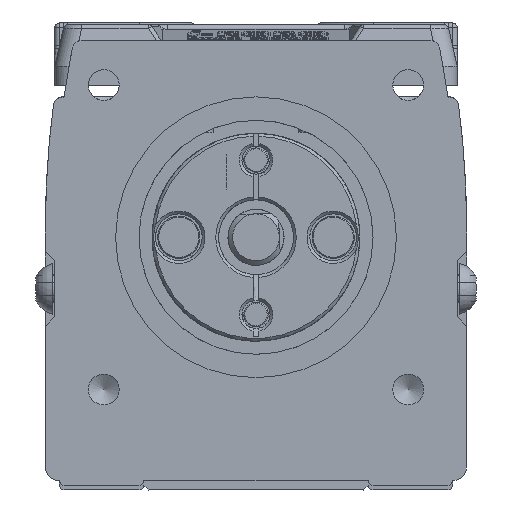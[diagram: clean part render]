
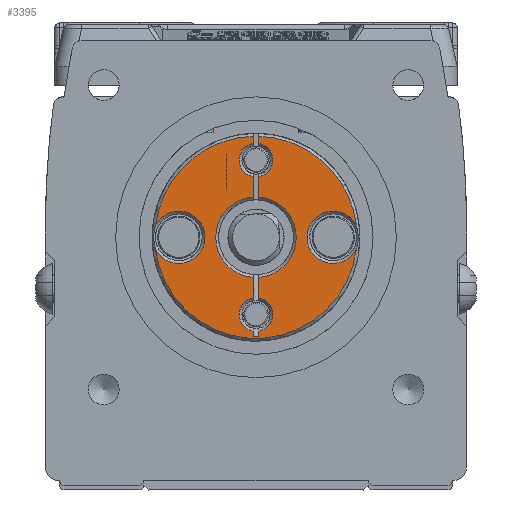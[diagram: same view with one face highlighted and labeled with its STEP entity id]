
A CAD part, left-side view. The second image highlights one B-rep face of the part: STEP entity #3395.
In plain terms, the highlighted planar face has unit normal (-1, 0, 0) as drawn and (1, 0, 0) by its records, which use the part's own axes.
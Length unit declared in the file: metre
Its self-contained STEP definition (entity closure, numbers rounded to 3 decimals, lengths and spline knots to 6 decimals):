
#3395=ADVANCED_FACE('',(#7550),#7551,.F.);
#7550=FACE_OUTER_BOUND('',#13743,.T.);
#7551=PLANE('',#13744);
#13743=EDGE_LOOP('',(#23299,#23300,#23301,#23302,#23303,#23304,#23305,#23306,#23307,#23308,#23309,#23310,#23311,#23312,#23313,#23314,#23315,#23316,#23317,#23318));
#13744=AXIS2_PLACEMENT_3D('',#23319,#23320,#23321);
#23299=ORIENTED_EDGE('',*,*,#38531,.F.);
#23300=ORIENTED_EDGE('',*,*,#38532,.T.);
#23301=ORIENTED_EDGE('',*,*,#38533,.F.);
#23302=ORIENTED_EDGE('',*,*,#38534,.F.);
#23303=ORIENTED_EDGE('',*,*,#38302,.T.);
#23304=ORIENTED_EDGE('',*,*,#38535,.T.);
#23305=ORIENTED_EDGE('',*,*,#38536,.F.);
#23306=ORIENTED_EDGE('',*,*,#38537,.F.);
#23307=ORIENTED_EDGE('',*,*,#38538,.F.);
#23308=ORIENTED_EDGE('',*,*,#38539,.T.);
#23309=ORIENTED_EDGE('',*,*,#38540,.F.);
#23310=ORIENTED_EDGE('',*,*,#38541,.F.);
#23311=ORIENTED_EDGE('',*,*,#38542,.F.);
#23312=ORIENTED_EDGE('',*,*,#38543,.F.);
#23313=ORIENTED_EDGE('',*,*,#38544,.F.);
#23314=ORIENTED_EDGE('',*,*,#38545,.F.);
#23315=ORIENTED_EDGE('',*,*,#38546,.F.);
#23316=ORIENTED_EDGE('',*,*,#38547,.F.);
#23317=ORIENTED_EDGE('',*,*,#38548,.T.);
#23318=ORIENTED_EDGE('',*,*,#38549,.F.);
#23319=CARTESIAN_POINT('',(0.0,0.0,0.));
#23320=DIRECTION('',(-1.0,0.,0.0));
#23321=DIRECTION('',(0.,-1.0,0.0));
#38302=EDGE_CURVE('',#44430,#44434,#44436,.F.);
#38531=EDGE_CURVE('',#44835,#44836,#44837,.F.);
#38532=EDGE_CURVE('',#44835,#44838,#44839,.T.);
#38533=EDGE_CURVE('',#44840,#44838,#44841,.F.);
#38534=EDGE_CURVE('',#44430,#44840,#44842,.T.);
#38535=EDGE_CURVE('',#44434,#44843,#44844,.T.);
#38536=EDGE_CURVE('',#44845,#44843,#44846,.F.);
#38537=EDGE_CURVE('',#44847,#44845,#44848,.T.);
#38538=EDGE_CURVE('',#44849,#44847,#44850,.T.);
#38539=EDGE_CURVE('',#44849,#44851,#44852,.T.);
#38540=EDGE_CURVE('',#44853,#44851,#44854,.F.);
#38541=EDGE_CURVE('',#44855,#44853,#44856,.T.);
#38542=EDGE_CURVE('',#44857,#44855,#44858,.T.);
#38543=EDGE_CURVE('',#44859,#44857,#44860,.T.);
#38544=EDGE_CURVE('',#44861,#44859,#44862,.T.);
#38545=EDGE_CURVE('',#44863,#44861,#44864,.T.);
#38546=EDGE_CURVE('',#44865,#44863,#44866,.T.);
#38547=EDGE_CURVE('',#44867,#44865,#44868,.T.);
#38548=EDGE_CURVE('',#44867,#44869,#44870,.F.);
#38549=EDGE_CURVE('',#44836,#44869,#44871,.T.);
#44430=VERTEX_POINT('',#53381);
#44434=VERTEX_POINT('',#53389);
#44436=LINE('',#53391,#53392);
#44835=VERTEX_POINT('',#54107);
#44836=VERTEX_POINT('',#54108);
#44837=LINE('',#54109,#54110);
#44838=VERTEX_POINT('',#54111);
#44839=CIRCLE('',#54112,0.0043);
#44840=VERTEX_POINT('',#54113);
#44841=LINE('',#54114,#54115);
#44842=CIRCLE('',#54116,0.0018);
#44843=VERTEX_POINT('',#54117);
#44844=LINE('',#54118,#54119);
#44845=VERTEX_POINT('',#54120);
#44846=LINE('',#54121,#54122);
#44847=VERTEX_POINT('',#54123);
#44848=CIRCLE('',#54124,0.0018);
#44849=VERTEX_POINT('',#54125);
#44850=LINE('',#54126,#54127);
#44851=VERTEX_POINT('',#54128);
#44852=CIRCLE('',#54129,0.0043);
#44853=VERTEX_POINT('',#54130);
#44854=LINE('',#54131,#54132);
#44855=VERTEX_POINT('',#54133);
#44856=CIRCLE('',#54134,0.0018);
#44857=VERTEX_POINT('',#54135);
#44858=LINE('',#54136,#54137);
#44859=VERTEX_POINT('',#54138);
#44860=CIRCLE('',#54139,0.0108);
#44861=VERTEX_POINT('',#54140);
#44862=CIRCLE('',#54141,0.0028);
#44863=VERTEX_POINT('',#54142);
#44864=CIRCLE('',#54143,0.0108);
#44865=VERTEX_POINT('',#54144);
#44866=CIRCLE('',#54145,0.0028);
#44867=VERTEX_POINT('',#54146);
#44868=CIRCLE('',#54147,0.0108);
#44869=VERTEX_POINT('',#54148);
#44870=LINE('',#54149,#54150);
#44871=CIRCLE('',#54151,0.0018);
#53381=CARTESIAN_POINT('',(0.,-0.010025,-0.0003));
#53389=CARTESIAN_POINT('',(0.,-0.010642,-0.0003));
#53391=CARTESIAN_POINT('',(0.0,0.0025,-0.0003));
#53392=VECTOR('',#66726,1.0);
#54107=CARTESIAN_POINT('',(0.,0.00429,-0.0003));
#54108=CARTESIAN_POINT('',(0.,0.006475,-0.0003));
#54109=CARTESIAN_POINT('',(0.0,0.0,-0.0003));
#54110=VECTOR('',#67019,1.0);
#54111=CARTESIAN_POINT('',(0.,-0.00429,-0.0003));
#54112=AXIS2_PLACEMENT_3D('',#67020,#67021,#67022);
#54113=CARTESIAN_POINT('',(0.,-0.006475,-0.0003));
#54114=CARTESIAN_POINT('',(0.0,0.0,-0.0003));
#54115=VECTOR('',#67023,1.0);
#54116=AXIS2_PLACEMENT_3D('',#67024,#67025,#67026);
#54117=CARTESIAN_POINT('',(0.,-0.010642,0.0003));
#54118=CARTESIAN_POINT('',(0.,-0.010642,0.0003));
#54119=VECTOR('',#67027,1.0);
#54120=CARTESIAN_POINT('',(0.,-0.010025,0.0003));
#54121=CARTESIAN_POINT('',(0.0,0.0025,0.0003));
#54122=VECTOR('',#67028,1.0);
#54123=CARTESIAN_POINT('',(0.,-0.006475,0.0003));
#54124=AXIS2_PLACEMENT_3D('',#67029,#67030,#67031);
#54125=CARTESIAN_POINT('',(0.,-0.00429,0.0003));
#54126=CARTESIAN_POINT('',(0.0,0.0,0.0003));
#54127=VECTOR('',#67032,1.0);
#54128=CARTESIAN_POINT('',(0.0,0.00429,0.0003));
#54129=AXIS2_PLACEMENT_3D('',#67033,#67034,#67035);
#54130=CARTESIAN_POINT('',(0.0,0.006475,0.0003));
#54131=CARTESIAN_POINT('',(0.0,0.0025,0.0003));
#54132=VECTOR('',#67036,1.0);
#54133=CARTESIAN_POINT('',(0.,0.010025,0.0003));
#54134=AXIS2_PLACEMENT_3D('',#67037,#67038,#67039);
#54135=CARTESIAN_POINT('',(0.,0.010796,0.0003));
#54136=CARTESIAN_POINT('',(0.0,0.0,0.0003));
#54137=VECTOR('',#67040,1.0);
#54138=CARTESIAN_POINT('',(0.,0.001321,0.010719));
#54139=AXIS2_PLACEMENT_3D('',#67041,#67042,#67043);
#54140=CARTESIAN_POINT('',(0.,-0.001321,0.010719));
#54141=AXIS2_PLACEMENT_3D('',#67044,#67045,#67046);
#54142=CARTESIAN_POINT('',(0.,-0.001321,-0.010719));
#54143=AXIS2_PLACEMENT_3D('',#67047,#67048,#67049);
#54144=CARTESIAN_POINT('',(0.,0.001321,-0.010719));
#54145=AXIS2_PLACEMENT_3D('',#67050,#67051,#67052);
#54146=CARTESIAN_POINT('',(0.,0.010796,-0.0003));
#54147=AXIS2_PLACEMENT_3D('',#67053,#67054,#67055);
#54148=CARTESIAN_POINT('',(0.,0.010025,-0.0003));
#54149=CARTESIAN_POINT('',(0.0,0.0025,-0.0003));
#54150=VECTOR('',#67056,1.0);
#54151=AXIS2_PLACEMENT_3D('',#67057,#67058,#67059);
#66726=DIRECTION('',(0.0,1.0,0.0));
#67019=DIRECTION('',(0.,-1.0,0.0));
#67020=CARTESIAN_POINT('',(0.,0.,0.));
#67021=DIRECTION('',(-1.0,0.,0.0));
#67022=DIRECTION('',(0.,-1.0,0.0));
#67023=DIRECTION('',(0.,-1.0,0.0));
#67024=CARTESIAN_POINT('',(0.0,-0.00825,0.));
#67025=DIRECTION('',(1.0,0.0,0.0));
#67026=DIRECTION('',(0.0,0.0,-1.0));
#67027=DIRECTION('',(0.0,0.0,1.0));
#67028=DIRECTION('',(0.0,1.0,0.0));
#67029=CARTESIAN_POINT('',(0.0,-0.00825,0.));
#67030=DIRECTION('',(1.0,0.0,0.0));
#67031=DIRECTION('',(0.0,0.0,-1.0));
#67032=DIRECTION('',(0.,-1.0,0.0));
#67033=CARTESIAN_POINT('',(0.,0.,0.));
#67034=DIRECTION('',(-1.0,0.,0.0));
#67035=DIRECTION('',(0.,-1.0,0.0));
#67036=DIRECTION('',(0.0,1.0,0.0));
#67037=CARTESIAN_POINT('',(0.0,0.00825,0.));
#67038=DIRECTION('',(1.0,0.0,0.0));
#67039=DIRECTION('',(0.0,0.0,-1.0));
#67040=DIRECTION('',(0.,-1.0,0.0));
#67041=CARTESIAN_POINT('',(0.,0.0,0.));
#67042=DIRECTION('',(-1.0,0.0,0.0));
#67043=DIRECTION('',(0.0,0.0,1.0));
#67044=CARTESIAN_POINT('',(0.0,0.,0.00825));
#67045=DIRECTION('',(1.0,0.,0.0));
#67046=DIRECTION('',(0.,1.0,0.0));
#67047=CARTESIAN_POINT('',(0.,0.0,0.));
#67048=DIRECTION('',(-1.0,0.0,0.0));
#67049=DIRECTION('',(0.0,0.0,1.0));
#67050=CARTESIAN_POINT('',(0.,0.,-0.00825));
#67051=DIRECTION('',(1.0,0.,0.0));
#67052=DIRECTION('',(0.,1.0,0.0));
#67053=CARTESIAN_POINT('',(0.,0.0,0.));
#67054=DIRECTION('',(-1.0,0.0,0.0));
#67055=DIRECTION('',(0.0,0.0,1.0));
#67056=DIRECTION('',(0.0,1.0,0.0));
#67057=CARTESIAN_POINT('',(0.0,0.00825,0.));
#67058=DIRECTION('',(1.0,0.0,0.0));
#67059=DIRECTION('',(0.0,0.0,-1.0));
